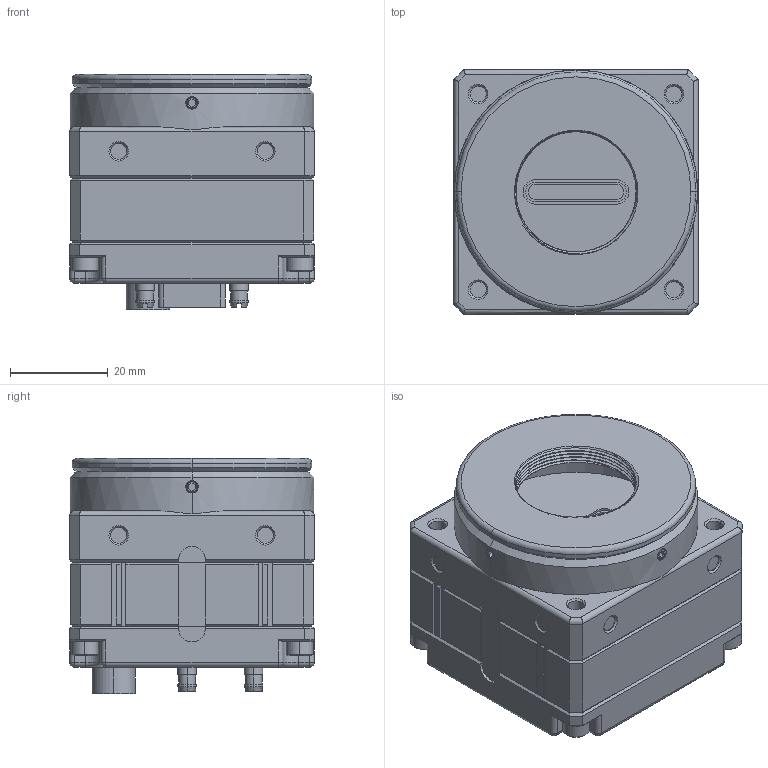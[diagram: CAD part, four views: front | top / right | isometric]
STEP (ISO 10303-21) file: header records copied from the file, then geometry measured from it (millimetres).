
FILE_DESCRIPTION((''),'2;1');
FILE_NAME('LV-M422C-STEP-F-MOUNT_ASM','2021-04-23T',('Dongwoo'),(''),'CREO PARAMETRIC BY PTC INC, 2016130','CREO PARAMETRIC BY PTC INC, 2016130','');
FILE_SCHEMA(('CONFIG_CONTROL_DESIGN'));
Products named in the file (18): LV-M422C_BASE_10_1_1; LV-M422C_BASE_MODULE_ASM_4_ASM__ASM; LV-M422C_MIDDLE_2_1_1; LV-M422C_824C_BACK_7_1_1; HR10A_7R_6P__4_1_1; MVU-00-09-00-00__5_1_1; POCL-CONNECTOR-00__2_1_1; POCL-CONNECTOR-01__2_1_1; POCL-CONNECTOR__ASM_2_ASM_1_ASM_ASM; LSC-2K-4K-BACK-BOARD-MODULE_ASM_ASM; LV-M422C_824C_BACK_MODULE_ASM_2_ASM; BOLT_SH_M3_L20_SUS_2_1_1; SCREW-SC-M2_5L3-SCM_2_1_1; LV-M422C_ASM_14_ASM_1_ASM_1_ASM; LV-M422C_ASM_ASM_1_ASM_1_ASM; LV-M422C-STEP_ASM_1_ASM; LV-M422C_TO_CMOUNT; LV-M422C-STEP-F-MOUNT_ASM
Assembly tree (25 placements, depth 8):
  LV-M422C-STEP-F-MOUNT_ASM
    LV-M422C-STEP_ASM_1_ASM
      LV-M422C_ASM_ASM_1_ASM_1_ASM
        LV-M422C_ASM_14_ASM_1_ASM_1_ASM
          LV-M422C_BASE_MODULE_ASM_4_ASM__ASM
            LV-M422C_BASE_10_1_1
          LV-M422C_MIDDLE_2_1_1
          LV-M422C_824C_BACK_MODULE_ASM_2_ASM
            LV-M422C_824C_BACK_7_1_1
            HR10A_7R_6P__4_1_1
            MVU-00-09-00-00__5_1_1
            LSC-2K-4K-BACK-BOARD-MODULE_ASM_ASM
              POCL-CONNECTOR__ASM_2_ASM_1_ASM_ASM  x2
                POCL-CONNECTOR-00__2_1_1
                POCL-CONNECTOR-01__2_1_1
          BOLT_SH_M3_L20_SUS_2_1_1  x4
          SCREW-SC-M2_5L3-SCM_2_1_1  x4
    LV-M422C_TO_CMOUNT
Bounding box: 50 x 50 x 48.07 mm (x, y, z)
Volume: 104918.9 mm3; surface area: 37416.8 mm2
Topology: 20 solids, 56 shells, 1235 faces, 2969 edges, 1940 vertices
Faces by surface type: plane 618, cylinder 475, cone 119, bspline 9, sphere 8, torus 6
Entity records: 29584 total; most frequent: CARTESIAN_POINT 7782, DIRECTION 4726, ORIENTED_EDGE 4166, EDGE_CURVE 2147, AXIS2_PLACEMENT_3D 1783, VERTEX_POINT 1402, VECTOR 1160, LINE 1160
